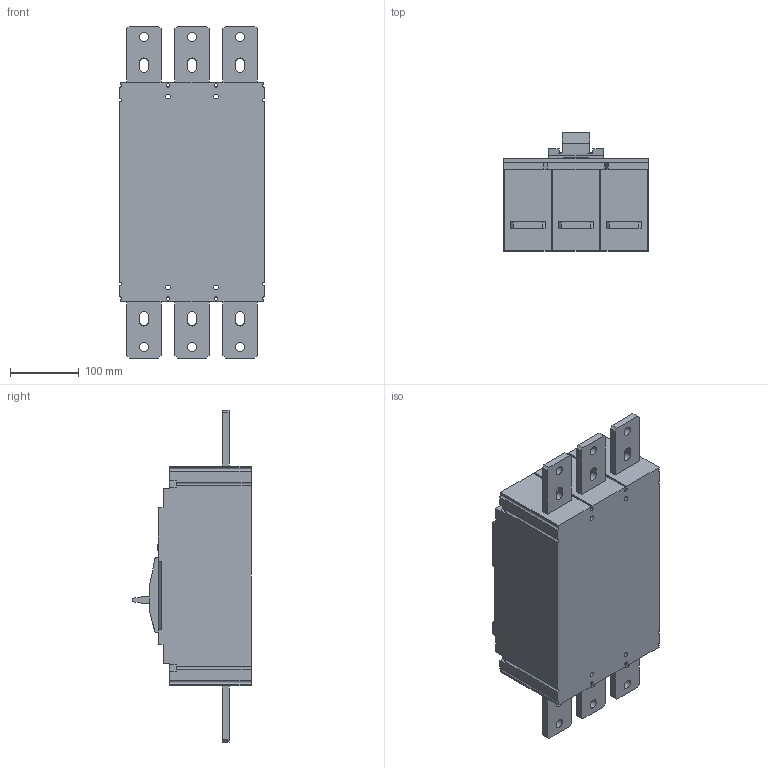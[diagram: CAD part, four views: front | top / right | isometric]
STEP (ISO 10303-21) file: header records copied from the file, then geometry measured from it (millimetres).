
FILE_DESCRIPTION(/* description */ ('','CAx-IF Rec.Pracs.---Representation and Presentation of Product Manufacturing Information (PMI)---3.8---2014-02-18'),/* implementation_level */ '2;1');
FILE_NAME(/* name */ 'E:\3D model\44-susol-mccb-800af-iec-2p3p.stp',/* time_stamp */ '2017-11-09T14:53:35+03:00',/* author */ ('dobrin'),/* organization */ (''),/* preprocessor_version */ 'ST-DEVELOPER v16.13',/* originating_system */ 'Autodesk Inventor 2018',/* authorisation */ '');
FILE_SCHEMA (('AP242_MANAGED_MODEL_BASED_3D_ENGINEERING_MIM_LF { 1 0 10303 442 1 1 4 }'));
Length unit declared in the file: metre
Products named in the file (1): 44-susol-mccb-800af-iec-2p3p
Bounding box: 210 x 172 x 483 mm (x, y, z)
Volume: 8980312.4 mm3; surface area: 372075.4 mm2
Topology: 1 solids, 1 shells, 716 faces, 1913 edges, 1262 vertices
Faces by surface type: plane 615, cylinder 73, torus 12, sphere 8, cone 8
Full cylindrical faces by diameter (mm): 3 x3, 7 x6, 8 x4, 13 x6, 22 x6, 26 x6
Entity records: 21968 total; most frequent: CARTESIAN_POINT 3874, ORIENTED_EDGE 3740, DIRECTION 3520, EDGE_CURVE 1870, LINE 1688, VECTOR 1688, VERTEX_POINT 1262, AXIS2_PLACEMENT_3D 920
